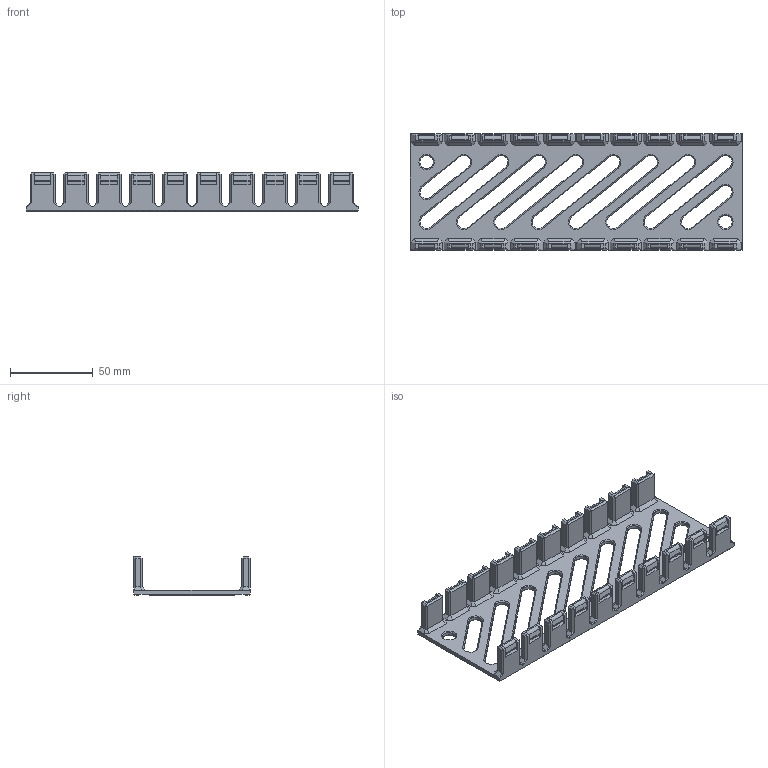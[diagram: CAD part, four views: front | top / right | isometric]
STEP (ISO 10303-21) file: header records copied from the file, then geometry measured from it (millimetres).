
FILE_DESCRIPTION (( 'STEP AP203' ), '1' );
FILE_NAME ('tray.STEP', '2024-01-08T02:26:58', ( '' ), ( '' ), 'SwSTEP 2.0', 'SolidWorks 2020', '' );
FILE_SCHEMA (( 'CONFIG_CONTROL_DESIGN' ));
Length unit declared in the file: millimetre
Products named in the file (1): tray
Bounding box: 200 x 70 x 23 mm (x, y, z)
Volume: 55515.6 mm3; surface area: 39365.5 mm2
Topology: 1 solids, 1 shells, 745 faces, 1832 edges, 1089 vertices
Faces by surface type: plane 632, cone 62, cylinder 51
Entity records: 21264 total; most frequent: CARTESIAN_POINT 3667, ORIENTED_EDGE 3664, DIRECTION 3497, EDGE_CURVE 1832, LINE 1659, VECTOR 1659, VERTEX_POINT 1089, AXIS2_PLACEMENT_3D 919
